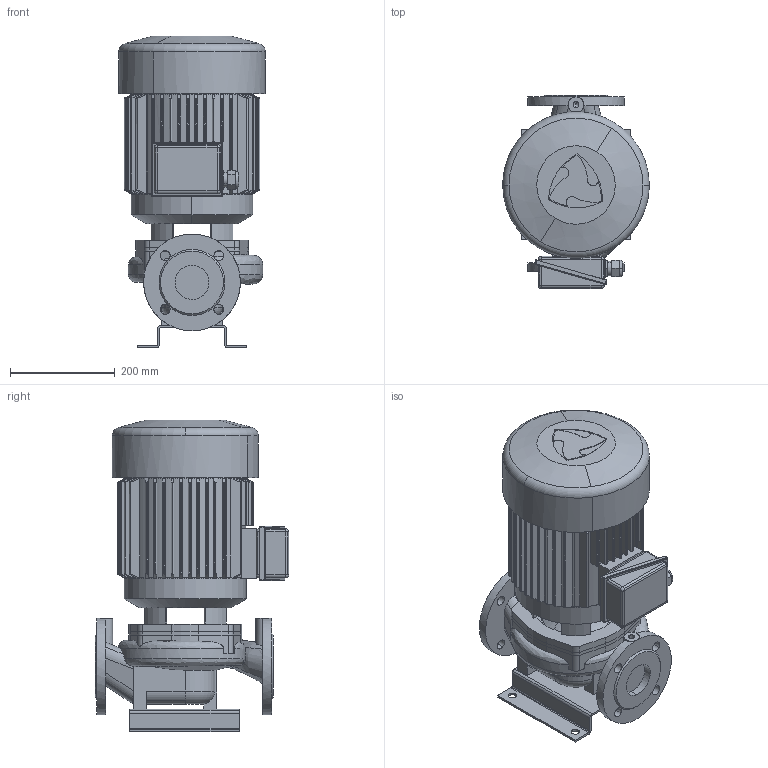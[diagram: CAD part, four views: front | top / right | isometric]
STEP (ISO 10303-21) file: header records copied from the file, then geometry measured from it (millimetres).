
FILE_DESCRIPTION(('STEP AP214'),'1');
FILE_NAME('export.stp','2018-05-29T07:04:10',(' '),(' '),'Spatial InterOp 3D',' ',' ');
FILE_SCHEMA(('AUTOMOTIVE_DESIGN { 1 0 10303 214 1 1 1 1 }'));
Length unit declared in the file: millimetre
Products named in the file (11): W_L65A4770_withou; V_TLL65AB80A1102; V_PPL65AB; V_JALKA35973; W_L65B2750_KP-132; V_MOKN132; RU_OKN_132; TSUOJA_OKN_132_133; KYTKOTELO_OKN_100_133; V_Mkp-132_F19; V_EKF19OKN132
Assembly tree (10 placements, depth 4):
  W_L65B2750_KP-132
    W_L65A4770_withou
      V_TLL65AB80A1102
      V_PPL65AB
      V_JALKA35973
    V_Mkp-132_F19
      V_MOKN132
        RU_OKN_132
        TSUOJA_OKN_132_133
        KYTKOTELO_OKN_100_133
      V_EKF19OKN132
Bounding box: 280 x 369.5 x 595.5 mm (x, y, z)
Volume: 23805796.4 mm3; surface area: 1444654.5 mm2
Topology: 7 solids, 8 shells, 796 faces, 2077 edges, 1298 vertices
Faces by surface type: cylinder 352, plane 284, cone 94, bspline 40, torus 14, sphere 12
Entity records: 43298 total; most frequent: CARTESIAN_POINT 10463, ORIENTED_EDGE 4110, DIRECTION 3797, STYLED_ITEM 2298, PRESENTATION_STYLE_ASSIGNMENT 2298, COLOUR_RGB 2298, EDGE_CURVE 2055, AXIS2_PLACEMENT_3D 1498
